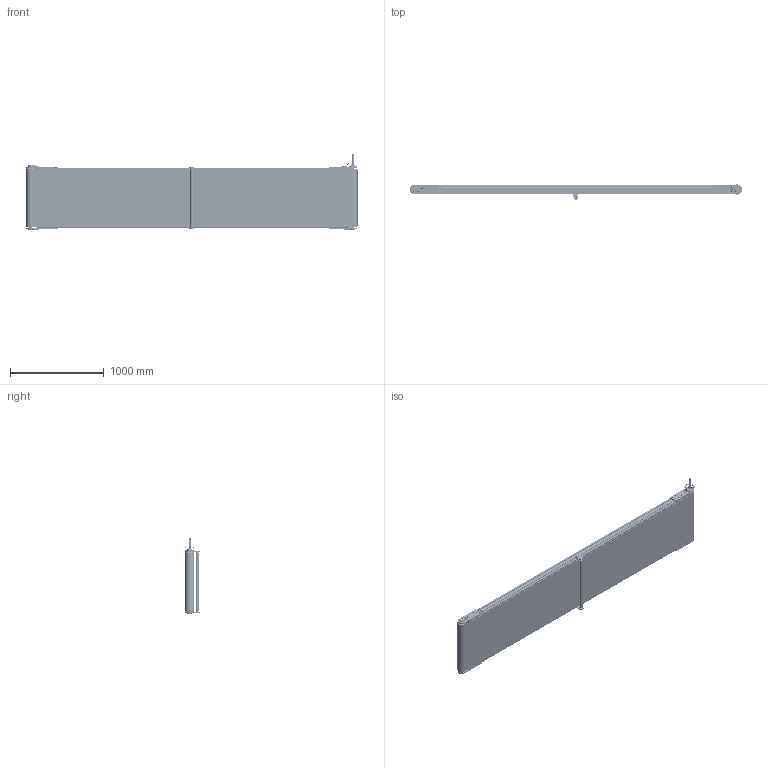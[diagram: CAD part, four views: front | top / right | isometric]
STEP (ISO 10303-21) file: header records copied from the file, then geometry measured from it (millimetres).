
FILE_DESCRIPTION (( 'STEP AP203' ), '1' );
FILE_NAME ('NASTRO_RETTILINEO_TAPPETO.step', '2026-04-23T11:10:42', ( 'Utente Windows' ), ( '' ), 'SwSTEP 2.0', 'SolidWorks 2024', '' );
FILE_SCHEMA (( 'CONFIG_CONTROL_DESIGN' ));
Length unit declared in the file: millimetre
Products named in the file (48): 084.802.014; 084.802.067_Default<A macchina>; VITI TE UNI 5739_M6x16 UNI 5739; 084.302.000 DADI ALUSIC 13x13-1_084.302.004; TELAIO_95_STANDARD_Default<A macchina>; 084.802.028; VITI TE UNI 5739_M6x12 UNI 5739; 084.808.002_084.808.002; RONDELLE FASCIA LARGA UNI 6593_6.4x24 UNI 6593; 084.802.060_Default<A macchina>; VITI TSEI UNI 5933_M4x12 UNI 5933; VITI TCEI UNI 5931_M4x25 UNI 5931; 084.301.000 VITI ALUSIC_084.301.003; RULLO_REGGITAPPETO; 084.802.062; 084.802.068; 084.812.033; 084.808.013; VITE_RONDELLA_M8X20; 084.803.003; LAMIERA_STANDARD; BLOCCO_REGGITAPPETO; BLOCCO_TRAINO_95_STANDARD_CON TENDINASTRO E CARTER; BLOCCO_PERNO_95_WA30; 084.302.000 DADI ALUSIC 13x13-1_084.302.007; 084.302.060; 30UNI7435; 084.303.001; BLOCCO_RINVIO_95_STANDARD_CON TENDINASTRO E CARTER; VITE_DADO_M5X12; CHIAVETTE_A 6x6x70 UNI 6604-69; 084.802.034_084.802.034; 084.802.071; 084.810.003; BLOCCO_BRACCIO_WA30_WA30; BLOCCO_PERNO_95_RINVIO; 084.802.013-2; VITI TE UNI 5739_M8x12 UNI 5739; NASTRO_RETTILINEO_TAPPETO; TAPPETO_STANDARD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
Assembly tree (139 placements, depth 4):
  NASTRO_RETTILINEO_TAPPETO
    TAPPETO_STANDARD
    TELAIO_95_STANDARD_Default<A macchina>
    LAMIERA_STANDARD  x2
    RULLO_95_Default<A macchina>  x2
    BLOCCO_PERNO_95_WA30
      084.812.033
      084.810.003
      CHIAVETTE_A 6x6x70 UNI 6604-69
      CHIAVETTE_A 8x7x20 UNI 6604-69
      RONDELLE FASCIA LARGA UNI 6593_6.4x24 UNI 6593
      VITI TE UNI 5739_M6x16 UNI 5739
      30UNI7435
    BLOCCO_TRAINO_95_STANDARD_WA30_DX_CON TENDINASTRO E SENZA CARTER
      084.808.003_084.808.003
      084.302.060  x2
      084.802.034_084.802.034
      084.301.000 VITI ALUSIC_084.301.003  x6
      VITI TCEI UNI 5931_M4x25 UNI 5931  x2
      084.802.067_Default<A macchina>
      BLOCCO_BRACCIO_WA30_WA30
        084.808.013
        084.802.062
        084.802.060_Default<A macchina>
        VITI TE UNI 5739_M8x12 UNI 5739  x4
        VITI TE UNI 5739_M6x12 UNI 5739  x4
    BLOCCO_PERNO_95_RINVIO  x3
      084.812.003
      084.810.003
      30UNI7435
    BLOCCO_TRAINO_95_STANDARD_CON TENDINASTRO E CARTER
      084.808.002_084.808.002
      084.302.060  x2
      084.802.019_084.802.019
      084.301.000 VITI ALUSIC_084.301.003  x6
      VITI TCEI UNI 5931_M4x25 UNI 5931  x2
      084.802.071
      084.802.068
      VITI TSEI UNI 5933_M4x12 UNI 5933  x2
    BLOCCO_RINVIO_95_STANDARD_CON TENDINASTRO E CARTER  x2
      084.808.002_084.808.002
      084.803.003
      084.302.060
      084.802.019_084.802.019
      VITI TSEI UNI 5933_M4x12 UNI 5933
      084.302.000 DADI ALUSIC 13x13-1_084.302.004
      084.301.000 VITI ALUSIC_084.301.003
      084.802.071
    VITE_RONDELLA_M8X20  x25
      084.303.001
      084.301.000 VITI ALUSIC_084.301.003
    VITE_DADO_M5X12  x16
      084.302.000 DADI ALUSIC 13x13-1_084.302.007
      VITI TSEI UNI 5933_M5x12 UNI 5933
    BLOCCO_REGGITAPPETO  x2
      084.301.000 VITI ALUSIC_084.301.003
      084.302.000 DADI ALUSIC 13x13-1_084.302.004
      084.802.017_084.802.017
      084.802.028
      084.802.014
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Bounding box: 3535.29 x 161.29 x 819.9 mm (x, y, z)
Volume: 27876748.3 mm3; surface area: 24136715.9 mm2
Topology: 234 solids, 239 shells, 8341 faces, 21431 edges, 13728 vertices
Faces by surface type: plane 4411, cylinder 2145, cone 739, bspline 529, torus 453, sphere 64
Entity records: 147449 total; most frequent: CARTESIAN_POINT 41353, ORIENTED_EDGE 21388, DIRECTION 19718, EDGE_CURVE 10694, VERTEX_POINT 6899, AXIS2_PLACEMENT_3D 6680, VECTOR 6358, LINE 6358
